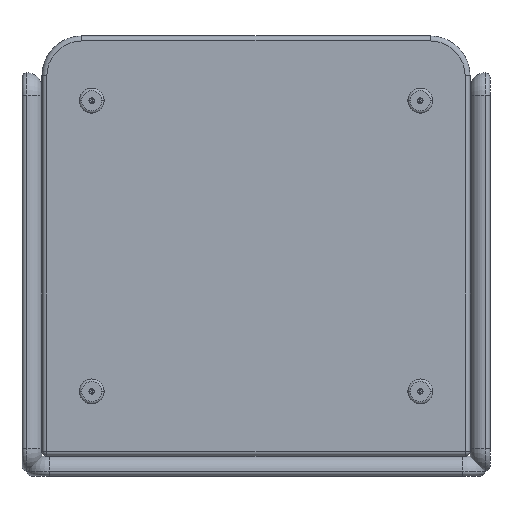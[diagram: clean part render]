
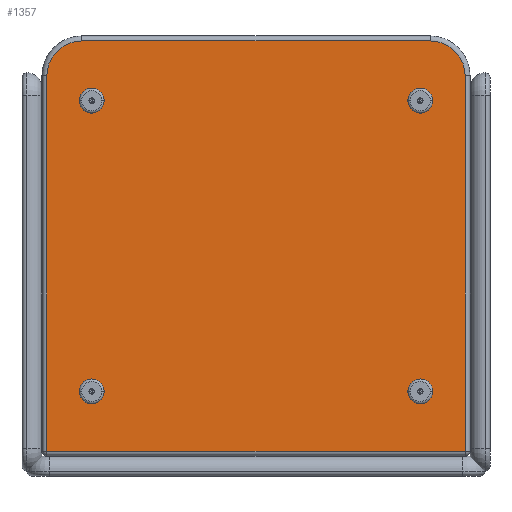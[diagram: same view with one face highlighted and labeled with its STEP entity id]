
A CAD part, front view. The second image highlights one B-rep face of the part: STEP entity #1357.
In plain terms, the highlighted planar face has unit normal (0, -1, 0).
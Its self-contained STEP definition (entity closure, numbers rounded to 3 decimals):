
#58 = VERTEX_POINT ( 'NONE', #34812 ) ;
#84 = FACE_BOUND ( 'NONE', #24987, .T. ) ;
#388 = DIRECTION ( 'NONE',  ( 0., 0., -1. ) ) ;
#593 = FACE_OUTER_BOUND ( 'NONE', #40538, .T. ) ;
#1253 = VERTEX_POINT ( 'NONE', #23863 ) ;
#1342 = DIRECTION ( 'NONE',  ( 0., -1., 0. ) ) ;
#1357 = ADVANCED_FACE ( 'NONE', ( #25147, #4769, #5290, #84, #593 ), #16250, .F. ) ;
#1478 = VERTEX_POINT ( 'NONE', #44183 ) ;
#1485 = EDGE_CURVE ( 'NONE', #43765, #23527, #16503, .T. ) ;
#2926 = EDGE_CURVE ( 'NONE', #31740, #28635, #17776, .T. ) ;
#3145 = DIRECTION ( 'NONE',  ( 0., 0., -1. ) ) ;
#4466 = ORIENTED_EDGE ( 'NONE', *, *, #37174, .F. ) ;
#4597 = CARTESIAN_POINT ( 'NONE',  ( 452.975, -284.103, -392. ) ) ;
#4769 = FACE_BOUND ( 'NONE', #39077, .T. ) ;
#5290 = FACE_BOUND ( 'NONE', #9569, .T. ) ;
#5773 = ORIENTED_EDGE ( 'NONE', *, *, #1485, .T. ) ;
#6662 = AXIS2_PLACEMENT_3D ( 'NONE', #42555, #39419, #3145 ) ;
#6748 = LINE ( 'NONE', #14817, #11356 ) ;
#7002 = DIRECTION ( 'NONE',  ( 0., 0., -1. ) ) ;
#7328 = CARTESIAN_POINT ( 'NONE',  ( 352.975, -284.103, -272. ) ) ;
#8241 = CARTESIAN_POINT ( 'NONE',  ( -307.025, -284.103, 312. ) ) ;
#8693 = DIRECTION ( 'NONE',  ( -1., 0., 0. ) ) ;
#9249 = EDGE_CURVE ( 'NONE', #21716, #45251, #12686, .T. ) ;
#9569 = EDGE_LOOP ( 'NONE', ( #15373, #39858 ) ) ;
#9679 = EDGE_CURVE ( 'NONE', #1478, #43765, #39401, .T. ) ;
#10066 = DIRECTION ( 'NONE',  ( 0., -1., 0. ) ) ;
#10321 = DIRECTION ( 'NONE',  ( -1., 0., 0. ) ) ;
#10342 = CIRCLE ( 'NONE', #18670, 4. ) ;
#10467 = VERTEX_POINT ( 'NONE', #45695 ) ;
#10659 = ORIENTED_EDGE ( 'NONE', *, *, #49976, .F. ) ;
#11156 = VERTEX_POINT ( 'NONE', #12264 ) ;
#11356 = VECTOR ( 'NONE', #46658, 1000. ) ;
#11602 = EDGE_CURVE ( 'NONE', #1253, #11156, #39113, .T. ) ;
#12100 = DIRECTION ( 'NONE',  ( 0., 1., 0. ) ) ;
#12264 = CARTESIAN_POINT ( 'NONE',  ( -307.025, -284.103, 308. ) ) ;
#12686 = CIRCLE ( 'NONE', #47700, 4. ) ;
#13042 = DIRECTION ( 'NONE',  ( 0., 0., -1. ) ) ;
#13117 = EDGE_CURVE ( 'NONE', #25419, #34580, #24150, .T. ) ;
#13606 = DIRECTION ( 'NONE',  ( 0., 0., -1. ) ) ;
#14068 = CIRCLE ( 'NONE', #23248, 70. ) ;
#14227 = CARTESIAN_POINT ( 'NONE',  ( 372.975, -284.103, 362. ) ) ;
#14817 = CARTESIAN_POINT ( 'NONE',  ( 442.975, -284.103, 442. ) ) ;
#15373 = ORIENTED_EDGE ( 'NONE', *, *, #28736, .F. ) ;
#16078 = DIRECTION ( 'NONE',  ( 0., -1., 0. ) ) ;
#16141 = CARTESIAN_POINT ( 'NONE',  ( -307.025, -284.103, -272. ) ) ;
#16250 = PLANE ( 'NONE',  #34526 ) ;
#16503 = LINE ( 'NONE', #24374, #16985 ) ;
#16741 = EDGE_CURVE ( 'NONE', #23527, #58, #14068, .T. ) ;
#16985 = VECTOR ( 'NONE', #8693, 1000. ) ;
#17776 = CIRCLE ( 'NONE', #31970, 4. ) ;
#18670 = AXIS2_PLACEMENT_3D ( 'NONE', #51053, #51313, #30737 ) ;
#18921 = ORIENTED_EDGE ( 'NONE', *, *, #9679, .T. ) ;
#19372 = ORIENTED_EDGE ( 'NONE', *, *, #16741, .T. ) ;
#20205 = DIRECTION ( 'NONE',  ( -1., 0., 0. ) ) ;
#20502 = DIRECTION ( 'NONE',  ( 0., -1., 0. ) ) ;
#20537 = ORIENTED_EDGE ( 'NONE', *, *, #40563, .T. ) ;
#20700 = DIRECTION ( 'NONE',  ( 1., 0., 0. ) ) ;
#21716 = VERTEX_POINT ( 'NONE', #39376 ) ;
#23248 = AXIS2_PLACEMENT_3D ( 'NONE', #39773, #35620, #20205 ) ;
#23254 = DIRECTION ( 'NONE',  ( 0., -1., 0. ) ) ;
#23527 = VERTEX_POINT ( 'NONE', #36907 ) ;
#23863 = CARTESIAN_POINT ( 'NONE',  ( -307.025, -284.103, 316. ) ) ;
#23894 = ORIENTED_EDGE ( 'NONE', *, *, #25391, .T. ) ;
#24025 = DIRECTION ( 'NONE',  ( 0., 0., -1. ) ) ;
#24150 = CIRCLE ( 'NONE', #28321, 4. ) ;
#24260 = DIRECTION ( 'NONE',  ( 0., -1., 0. ) ) ;
#24374 = CARTESIAN_POINT ( 'NONE',  ( 452.975, -284.103, 432. ) ) ;
#24987 = EDGE_LOOP ( 'NONE', ( #4466, #38827 ) ) ;
#25147 = FACE_BOUND ( 'NONE', #44927, .T. ) ;
#25391 = EDGE_CURVE ( 'NONE', #58, #10467, #35707, .T. ) ;
#25419 = VERTEX_POINT ( 'NONE', #32310 ) ;
#25693 = CARTESIAN_POINT ( 'NONE',  ( 442.975, -284.103, -392. ) ) ;
#25809 = AXIS2_PLACEMENT_3D ( 'NONE', #8241, #20502, #388 ) ;
#28321 = AXIS2_PLACEMENT_3D ( 'NONE', #29024, #1342, #13606 ) ;
#28635 = VERTEX_POINT ( 'NONE', #40405 ) ;
#28637 = CARTESIAN_POINT ( 'NONE',  ( 352.975, -284.103, -276. ) ) ;
#28736 = EDGE_CURVE ( 'NONE', #28635, #31740, #50894, .T. ) ;
#29024 = CARTESIAN_POINT ( 'NONE',  ( 352.975, -284.103, -272. ) ) ;
#29469 = ORIENTED_EDGE ( 'NONE', *, *, #40381, .F. ) ;
#30003 = CIRCLE ( 'NONE', #6662, 4. ) ;
#30438 = VERTEX_POINT ( 'NONE', #25693 ) ;
#30737 = DIRECTION ( 'NONE',  ( 0., 0., -1. ) ) ;
#31740 = VERTEX_POINT ( 'NONE', #47056 ) ;
#31970 = AXIS2_PLACEMENT_3D ( 'NONE', #40700, #49045, #13042 ) ;
#32310 = CARTESIAN_POINT ( 'NONE',  ( 352.975, -284.103, -268. ) ) ;
#32978 = CARTESIAN_POINT ( 'NONE',  ( 452.975, -284.103, 442. ) ) ;
#34417 = AXIS2_PLACEMENT_3D ( 'NONE', #14227, #10066, #10321 ) ;
#34526 = AXIS2_PLACEMENT_3D ( 'NONE', #32978, #12100, #20700 ) ;
#34580 = VERTEX_POINT ( 'NONE', #28637 ) ;
#34812 = CARTESIAN_POINT ( 'NONE',  ( -397.025, -284.103, 362. ) ) ;
#35164 = ORIENTED_EDGE ( 'NONE', *, *, #35571, .T. ) ;
#35571 = EDGE_CURVE ( 'NONE', #30438, #1478, #6748, .T. ) ;
#35620 = DIRECTION ( 'NONE',  ( 0., -1., 0. ) ) ;
#35707 = LINE ( 'NONE', #38570, #41777 ) ;
#35943 = DIRECTION ( 'NONE',  ( 1., 0., 0. ) ) ;
#36202 = VECTOR ( 'NONE', #35943, 1000. ) ;
#36907 = CARTESIAN_POINT ( 'NONE',  ( -327.025, -284.103, 432. ) ) ;
#37174 = EDGE_CURVE ( 'NONE', #34580, #25419, #37388, .T. ) ;
#37388 = CIRCLE ( 'NONE', #39055, 4. ) ;
#37880 = ORIENTED_EDGE ( 'NONE', *, *, #11602, .F. ) ;
#37888 = ORIENTED_EDGE ( 'NONE', *, *, #9249, .F. ) ;
#38570 = CARTESIAN_POINT ( 'NONE',  ( -397.025, -284.103, 442. ) ) ;
#38605 = CARTESIAN_POINT ( 'NONE',  ( 372.975, -284.103, 432. ) ) ;
#38827 = ORIENTED_EDGE ( 'NONE', *, *, #13117, .F. ) ;
#39055 = AXIS2_PLACEMENT_3D ( 'NONE', #7328, #23254, #24025 ) ;
#39077 = EDGE_LOOP ( 'NONE', ( #37888, #29469 ) ) ;
#39113 = CIRCLE ( 'NONE', #25809, 4. ) ;
#39376 = CARTESIAN_POINT ( 'NONE',  ( 352.975, -284.103, 308. ) ) ;
#39401 = CIRCLE ( 'NONE', #34417, 70. ) ;
#39419 = DIRECTION ( 'NONE',  ( 0., -1., 0. ) ) ;
#39581 = CARTESIAN_POINT ( 'NONE',  ( 352.975, -284.103, 312. ) ) ;
#39773 = CARTESIAN_POINT ( 'NONE',  ( -327.025, -284.103, 362. ) ) ;
#39858 = ORIENTED_EDGE ( 'NONE', *, *, #2926, .F. ) ;
#40149 = DIRECTION ( 'NONE',  ( 0., 0., -1. ) ) ;
#40381 = EDGE_CURVE ( 'NONE', #45251, #21716, #10342, .T. ) ;
#40405 = CARTESIAN_POINT ( 'NONE',  ( -307.025, -284.103, -276. ) ) ;
#40538 = EDGE_LOOP ( 'NONE', ( #23894, #20537, #35164, #18921, #5773, #19372 ) ) ;
#40563 = EDGE_CURVE ( 'NONE', #10467, #30438, #43764, .T. ) ;
#40700 = CARTESIAN_POINT ( 'NONE',  ( -307.025, -284.103, -272. ) ) ;
#40735 = CARTESIAN_POINT ( 'NONE',  ( 352.975, -284.103, 316. ) ) ;
#41749 = AXIS2_PLACEMENT_3D ( 'NONE', #16141, #24260, #40149 ) ;
#41777 = VECTOR ( 'NONE', #7002, 1000. ) ;
#42555 = CARTESIAN_POINT ( 'NONE',  ( -307.025, -284.103, 312. ) ) ;
#42981 = DIRECTION ( 'NONE',  ( 0., 0., -1. ) ) ;
#43764 = LINE ( 'NONE', #4597, #36202 ) ;
#43765 = VERTEX_POINT ( 'NONE', #38605 ) ;
#44183 = CARTESIAN_POINT ( 'NONE',  ( 442.975, -284.103, 362. ) ) ;
#44927 = EDGE_LOOP ( 'NONE', ( #10659, #37880 ) ) ;
#45251 = VERTEX_POINT ( 'NONE', #40735 ) ;
#45695 = CARTESIAN_POINT ( 'NONE',  ( -397.025, -284.103, -392. ) ) ;
#46658 = DIRECTION ( 'NONE',  ( 0., 0., 1. ) ) ;
#47056 = CARTESIAN_POINT ( 'NONE',  ( -307.025, -284.103, -268. ) ) ;
#47700 = AXIS2_PLACEMENT_3D ( 'NONE', #39581, #16078, #42981 ) ;
#49045 = DIRECTION ( 'NONE',  ( 0., -1., 0. ) ) ;
#49976 = EDGE_CURVE ( 'NONE', #11156, #1253, #30003, .T. ) ;
#50894 = CIRCLE ( 'NONE', #41749, 4. ) ;
#51053 = CARTESIAN_POINT ( 'NONE',  ( 352.975, -284.103, 312. ) ) ;
#51313 = DIRECTION ( 'NONE',  ( 0., -1., 0. ) ) ;
